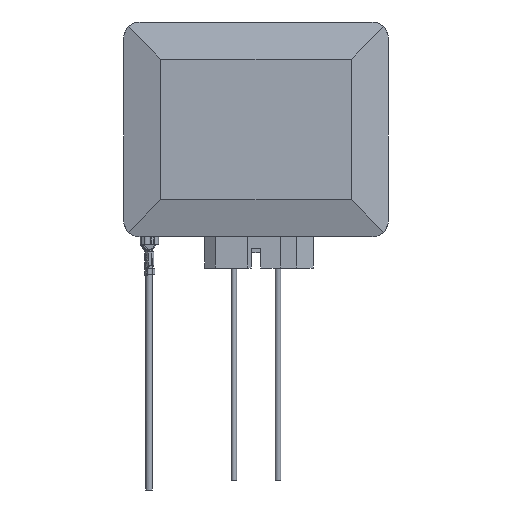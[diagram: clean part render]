
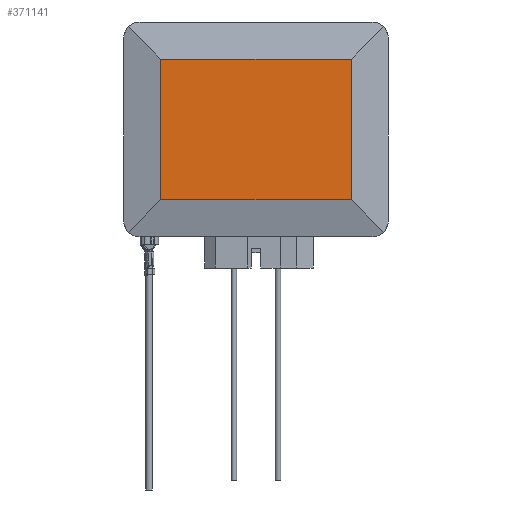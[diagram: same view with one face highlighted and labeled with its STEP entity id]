
A CAD part, front view. The second image highlights one B-rep face of the part: STEP entity #371141.
In plain terms, the highlighted planar face has unit normal (0, -1, 0) as drawn and (0, 0, 1) by its records, which use the part's own axes.
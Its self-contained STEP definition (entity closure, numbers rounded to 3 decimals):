
#370136=CARTESIAN_POINT(' ',(28.804,21.304,16.));
#370137=VERTEX_POINT(' ',#370136);
#370186=CARTESIAN_POINT(' ',(-28.804,21.304,16.));
#370187=VERTEX_POINT(' ',#370186);
#370201=CARTESIAN_POINT(' ',(28.804,21.304,16.));
#370206=DIRECTION(' ',(-1.,0.,0.));
#370211=VECTOR(' ',#370206,1.);
#370216=LINE('',#370201,#370211);
#370221=EDGE_CURVE(' ',#370137,#370187,#370216,.T.);
#370396=CARTESIAN_POINT(' ',(28.804,-21.304,16.));
#370401=DIRECTION(' ',(0.,1.,0.));
#370406=VECTOR(' ',#370401,1.);
#370411=LINE('',#370396,#370406);
#370416=CARTESIAN_POINT(' ',(28.804,-21.304,16.));
#370417=VERTEX_POINT(' ',#370416);
#370421=EDGE_CURVE(' ',#370417,#370137,#370411,.T.);
#370631=CARTESIAN_POINT(' ',(-28.804,-21.304,16.));
#370636=DIRECTION(' ',(1.,0.,0.));
#370641=VECTOR(' ',#370636,1.);
#370646=LINE('',#370631,#370641);
#370651=CARTESIAN_POINT(' ',(-28.804,-21.304,16.));
#370652=VERTEX_POINT(' ',#370651);
#370656=EDGE_CURVE(' ',#370652,#370417,#370646,.T.);
#370866=CARTESIAN_POINT(' ',(-28.804,21.304,16.));
#370871=DIRECTION(' ',(0.,-1.,0.));
#370876=VECTOR(' ',#370871,1.);
#370881=LINE('',#370866,#370876);
#370886=EDGE_CURVE(' ',#370187,#370652,#370881,.T.);
#371086=DIRECTION(' ',(-0.,-0.,1.));
#371091=CARTESIAN_POINT(' ',(28.804,-21.304,16.));
#371096=DIRECTION(' ',(0.,1.,0.));
#371101=AXIS2_PLACEMENT_3D(' ',#371091,#371086,#371096);
#371106=PLANE('',#371101);
#371111=ORIENTED_EDGE(' ',*,*,#370221,.T.);
#371116=ORIENTED_EDGE(' ',*,*,#370886,.T.);
#371121=ORIENTED_EDGE(' ',*,*,#370656,.T.);
#371126=ORIENTED_EDGE(' ',*,*,#370421,.T.);
#371131=EDGE_LOOP(' ',(#371111,#371116,#371121,#371126));
#371136=FACE_OUTER_BOUND(' ',#371131,.T.);
#371141=ADVANCED_FACE('',(#371136),#371106,.T.);
